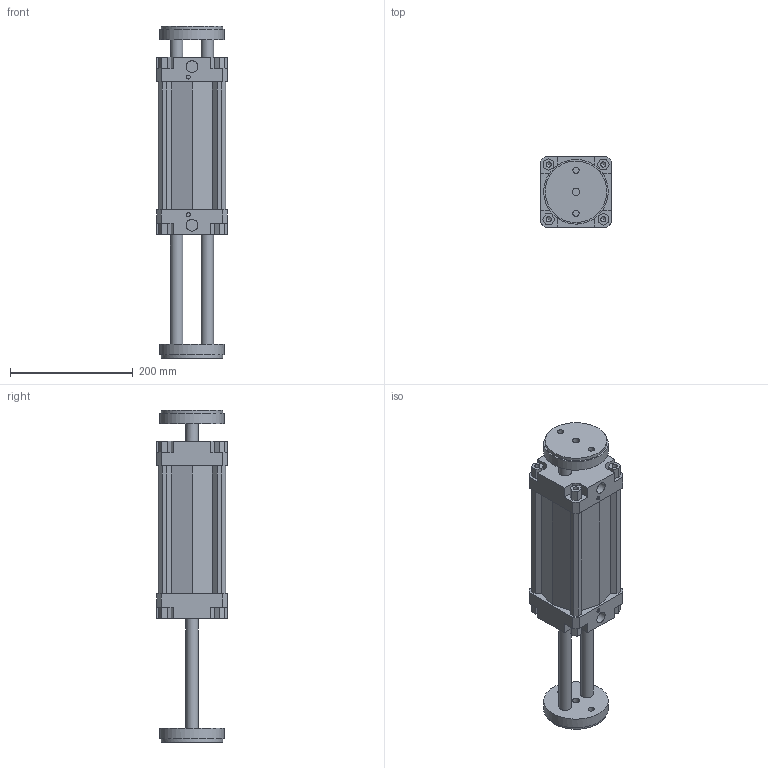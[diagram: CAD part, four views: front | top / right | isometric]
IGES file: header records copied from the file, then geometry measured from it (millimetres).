
Global section: file name: 132#_100_0150_06; native system: Autodesk Inventor 2014; preprocessor: unknown; author: A. Manieri; date: 20161006.163707; units: millimetre
Bounding box: 115 x 115 x 540 mm (x, y, z)
Volume: 2528329.1 mm3; surface area: 403540.1 mm2
Topology: 2 solids, 2 shells, 190 faces, 518 edges, 354 vertices
Faces by surface type: bspline 190
